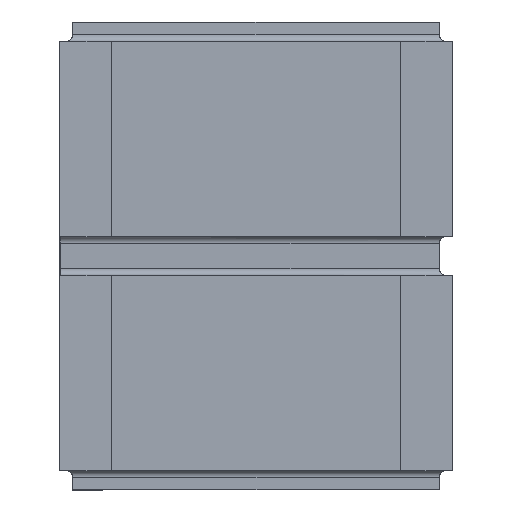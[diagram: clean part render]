
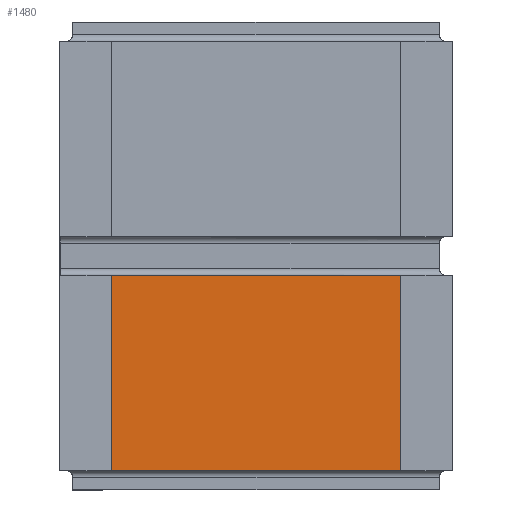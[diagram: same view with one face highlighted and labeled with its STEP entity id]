
A CAD part, top view. The second image highlights one B-rep face of the part: STEP entity #1480.
In plain terms, the highlighted planar face has unit normal (0, 0, 1).
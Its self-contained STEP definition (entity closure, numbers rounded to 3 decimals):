
#106=FACE_OUTER_BOUND('',#191,.T.);
#191=EDGE_LOOP('',(#1165,#1166,#1167,#1168));
#309=LINE('',#2238,#495);
#321=LINE('',#2260,#507);
#329=LINE('',#2285,#515);
#332=LINE('',#2290,#518);
#495=VECTOR('',#1816,10.);
#507=VECTOR('',#1840,10.);
#515=VECTOR('',#1864,10.);
#518=VECTOR('',#1869,10.);
#667=VERTEX_POINT('',#2236);
#668=VERTEX_POINT('',#2237);
#672=VERTEX_POINT('',#2258);
#681=VERTEX_POINT('',#2283);
#829=EDGE_CURVE('',#667,#668,#309,.T.);
#841=EDGE_CURVE('',#672,#667,#321,.T.);
#853=EDGE_CURVE('',#681,#672,#329,.T.);
#856=EDGE_CURVE('',#681,#668,#332,.T.);
#1165=ORIENTED_EDGE('',*,*,#853,.F.);
#1166=ORIENTED_EDGE('',*,*,#856,.T.);
#1167=ORIENTED_EDGE('',*,*,#829,.F.);
#1168=ORIENTED_EDGE('',*,*,#841,.F.);
#1403=PLANE('',#1603);
#1480=ADVANCED_FACE('',(#106),#1403,.T.);
#1603=AXIS2_PLACEMENT_3D('',#2289,#1867,#1868);
#1816=DIRECTION('',(-1.,0.,0.));
#1840=DIRECTION('',(0.,-1.,0.));
#1864=DIRECTION('',(1.,0.,0.));
#1867=DIRECTION('center_axis',(0.,0.,1.));
#1868=DIRECTION('ref_axis',(1.,0.,0.));
#1869=DIRECTION('',(0.,-1.,0.));
#2236=CARTESIAN_POINT('',(3.055,0.15,0.495));
#2237=CARTESIAN_POINT('',(0.005,0.15,0.495));
#2238=CARTESIAN_POINT('',(3.055,0.15,0.495));
#2258=CARTESIAN_POINT('',(3.055,1.675,0.495));
#2260=CARTESIAN_POINT('',(3.055,1.675,0.495));
#2283=CARTESIAN_POINT('',(0.005,1.675,0.495));
#2285=CARTESIAN_POINT('',(0.005,1.675,0.495));
#2289=CARTESIAN_POINT('Origin',(1.53,0.15,0.495));
#2290=CARTESIAN_POINT('',(0.005,1.675,0.495));
